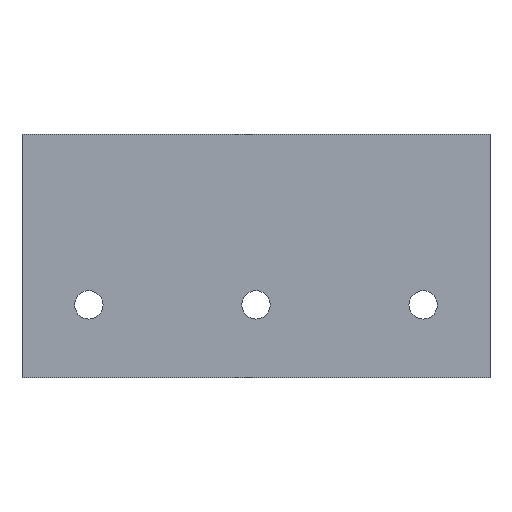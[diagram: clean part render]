
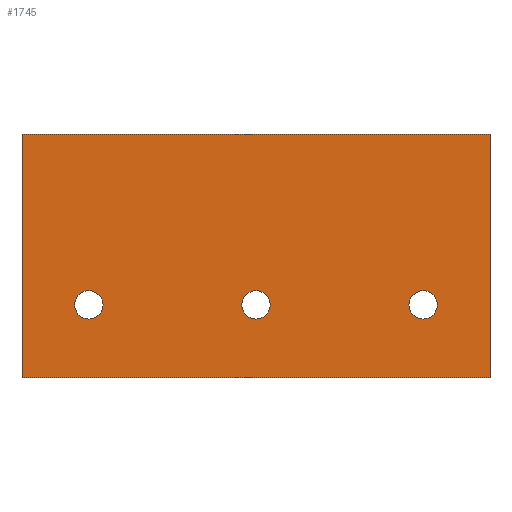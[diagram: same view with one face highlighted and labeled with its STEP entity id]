
A CAD part, top view. The second image highlights one B-rep face of the part: STEP entity #1745.
In plain terms, the highlighted planar face has unit normal (0, 0, 1).
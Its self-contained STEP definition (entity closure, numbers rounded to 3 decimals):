
#44 = PLANE('',#45);
#45 = AXIS2_PLACEMENT_3D('',#46,#47,#48);
#46 = CARTESIAN_POINT('',(28.,-42.1,-122.54));
#47 = DIRECTION('',(0.,-1.,0.));
#48 = DIRECTION('',(-0.,0.,-1.));
#72 = PLANE('',#73);
#73 = AXIS2_PLACEMENT_3D('',#74,#75,#76);
#74 = CARTESIAN_POINT('',(-28.,-56.142,-125.428));
#75 = DIRECTION('',(-1.,0.,0.));
#76 = DIRECTION('',(0.,0.,1.));
#100 = PLANE('',#101);
#101 = AXIS2_PLACEMENT_3D('',#102,#103,#104);
#102 = CARTESIAN_POINT('',(28.,-68.646,-128.54));
#103 = DIRECTION('',(0.,0.92,0.392));
#104 = DIRECTION('',(0.,-0.392,0.92)
  );
#126 = PLANE('',#127);
#127 = AXIS2_PLACEMENT_3D('',#128,#129,#130);
#128 = CARTESIAN_POINT('',(28.,-56.142,-125.428));
#129 = DIRECTION('',(-1.,0.,0.));
#130 = DIRECTION('',(0.,0.,1.));
#651 = EDGE_CURVE('',#652,#654,#656,.T.);
#652 = VERTEX_POINT('',#653);
#653 = CARTESIAN_POINT('',(28.,-42.1,-122.54));
#654 = VERTEX_POINT('',#655);
#655 = CARTESIAN_POINT('',(-28.,-42.1,-122.54));
#656 = SURFACE_CURVE('',#657,(#661,#668),.PCURVE_S1.);
#657 = LINE('',#658,#659);
#658 = CARTESIAN_POINT('',(28.,-42.1,-122.54));
#659 = VECTOR('',#660,1.);
#660 = DIRECTION('',(-1.,0.,0.));
#661 = PCURVE('',#44,#662);
#662 = DEFINITIONAL_REPRESENTATION('',(#663),#667);
#663 = LINE('',#664,#665);
#664 = CARTESIAN_POINT('',(0.,0.));
#665 = VECTOR('',#666,1.);
#666 = DIRECTION('',(0.,-1.));
#667 = ( GEOMETRIC_REPRESENTATION_CONTEXT(2) 
PARAMETRIC_REPRESENTATION_CONTEXT() REPRESENTATION_CONTEXT('2D SPACE',''
  ) );
#668 = PCURVE('',#669,#674);
#669 = PLANE('',#670);
#670 = AXIS2_PLACEMENT_3D('',#671,#672,#673);
#671 = CARTESIAN_POINT('',(28.,-71.2,-122.54));
#672 = DIRECTION('',(-0.,0.,-1.));
#673 = DIRECTION('',(0.,1.,0.));
#674 = DEFINITIONAL_REPRESENTATION('',(#675),#679);
#675 = LINE('',#676,#677);
#676 = CARTESIAN_POINT('',(29.1,0.));
#677 = VECTOR('',#678,1.);
#678 = DIRECTION('',(0.,-1.));
#679 = ( GEOMETRIC_REPRESENTATION_CONTEXT(2) 
PARAMETRIC_REPRESENTATION_CONTEXT() REPRESENTATION_CONTEXT('2D SPACE',''
  ) );
#729 = VERTEX_POINT('',#730);
#730 = CARTESIAN_POINT('',(28.,-71.2,-122.54));
#751 = EDGE_CURVE('',#729,#652,#752,.T.);
#752 = SURFACE_CURVE('',#753,(#757,#764),.PCURVE_S1.);
#753 = LINE('',#754,#755);
#754 = CARTESIAN_POINT('',(28.,-71.2,-122.54));
#755 = VECTOR('',#756,1.);
#756 = DIRECTION('',(0.,1.,0.));
#757 = PCURVE('',#126,#758);
#758 = DEFINITIONAL_REPRESENTATION('',(#759),#763);
#759 = LINE('',#760,#761);
#760 = CARTESIAN_POINT('',(2.888,-15.058));
#761 = VECTOR('',#762,1.);
#762 = DIRECTION('',(0.,1.));
#763 = ( GEOMETRIC_REPRESENTATION_CONTEXT(2) 
PARAMETRIC_REPRESENTATION_CONTEXT() REPRESENTATION_CONTEXT('2D SPACE',''
  ) );
#764 = PCURVE('',#669,#765);
#765 = DEFINITIONAL_REPRESENTATION('',(#766),#770);
#766 = LINE('',#767,#768);
#767 = CARTESIAN_POINT('',(0.,0.));
#768 = VECTOR('',#769,1.);
#769 = DIRECTION('',(1.,0.));
#770 = ( GEOMETRIC_REPRESENTATION_CONTEXT(2) 
PARAMETRIC_REPRESENTATION_CONTEXT() REPRESENTATION_CONTEXT('2D SPACE',''
  ) );
#778 = VERTEX_POINT('',#779);
#779 = CARTESIAN_POINT('',(-28.,-71.2,-122.54));
#800 = EDGE_CURVE('',#778,#654,#801,.T.);
#801 = SURFACE_CURVE('',#802,(#806,#813),.PCURVE_S1.);
#802 = LINE('',#803,#804);
#803 = CARTESIAN_POINT('',(-28.,-71.2,-122.54));
#804 = VECTOR('',#805,1.);
#805 = DIRECTION('',(0.,1.,0.));
#806 = PCURVE('',#72,#807);
#807 = DEFINITIONAL_REPRESENTATION('',(#808),#812);
#808 = LINE('',#809,#810);
#809 = CARTESIAN_POINT('',(2.888,-15.058));
#810 = VECTOR('',#811,1.);
#811 = DIRECTION('',(0.,1.));
#812 = ( GEOMETRIC_REPRESENTATION_CONTEXT(2) 
PARAMETRIC_REPRESENTATION_CONTEXT() REPRESENTATION_CONTEXT('2D SPACE',''
  ) );
#813 = PCURVE('',#669,#814);
#814 = DEFINITIONAL_REPRESENTATION('',(#815),#819);
#815 = LINE('',#816,#817);
#816 = CARTESIAN_POINT('',(0.,-56.));
#817 = VECTOR('',#818,1.);
#818 = DIRECTION('',(1.,0.));
#819 = ( GEOMETRIC_REPRESENTATION_CONTEXT(2) 
PARAMETRIC_REPRESENTATION_CONTEXT() REPRESENTATION_CONTEXT('2D SPACE',''
  ) );
#827 = EDGE_CURVE('',#729,#778,#828,.T.);
#828 = SURFACE_CURVE('',#829,(#833,#840),.PCURVE_S1.);
#829 = LINE('',#830,#831);
#830 = CARTESIAN_POINT('',(28.,-71.2,-122.54));
#831 = VECTOR('',#832,1.);
#832 = DIRECTION('',(-1.,0.,0.));
#833 = PCURVE('',#100,#834);
#834 = DEFINITIONAL_REPRESENTATION('',(#835),#839);
#835 = LINE('',#836,#837);
#836 = CARTESIAN_POINT('',(6.521,0.));
#837 = VECTOR('',#838,1.);
#838 = DIRECTION('',(0.,-1.));
#839 = ( GEOMETRIC_REPRESENTATION_CONTEXT(2) 
PARAMETRIC_REPRESENTATION_CONTEXT() REPRESENTATION_CONTEXT('2D SPACE',''
  ) );
#840 = PCURVE('',#669,#841);
#841 = DEFINITIONAL_REPRESENTATION('',(#842),#846);
#842 = LINE('',#843,#844);
#843 = CARTESIAN_POINT('',(0.,0.));
#844 = VECTOR('',#845,1.);
#845 = DIRECTION('',(0.,-1.));
#846 = ( GEOMETRIC_REPRESENTATION_CONTEXT(2) 
PARAMETRIC_REPRESENTATION_CONTEXT() REPRESENTATION_CONTEXT('2D SPACE',''
  ) );
#1745 = ADVANCED_FACE('',(#1746,#1752,#1783,#1814),#669,.F.);
#1746 = FACE_BOUND('',#1747,.F.);
#1747 = EDGE_LOOP('',(#1748,#1749,#1750,#1751));
#1748 = ORIENTED_EDGE('',*,*,#827,.T.);
#1749 = ORIENTED_EDGE('',*,*,#800,.T.);
#1750 = ORIENTED_EDGE('',*,*,#651,.F.);
#1751 = ORIENTED_EDGE('',*,*,#751,.F.);
#1752 = FACE_BOUND('',#1753,.F.);
#1753 = EDGE_LOOP('',(#1754));
#1754 = ORIENTED_EDGE('',*,*,#1755,.F.);
#1755 = EDGE_CURVE('',#1756,#1756,#1758,.T.);
#1756 = VERTEX_POINT('',#1757);
#1757 = CARTESIAN_POINT('',(-20.,-64.2,-122.54));
#1758 = SURFACE_CURVE('',#1759,(#1764,#1771),.PCURVE_S1.);
#1759 = CIRCLE('',#1760,1.7);
#1760 = AXIS2_PLACEMENT_3D('',#1761,#1762,#1763);
#1761 = CARTESIAN_POINT('',(-20.,-62.5,-122.54));
#1762 = DIRECTION('',(-0.,0.,-1.));
#1763 = DIRECTION('',(0.,-1.,0.));
#1764 = PCURVE('',#669,#1765);
#1765 = DEFINITIONAL_REPRESENTATION('',(#1766),#1770);
#1766 = CIRCLE('',#1767,1.7);
#1767 = AXIS2_PLACEMENT_2D('',#1768,#1769);
#1768 = CARTESIAN_POINT('',(8.7,-48.));
#1769 = DIRECTION('',(-1.,0.));
#1770 = ( GEOMETRIC_REPRESENTATION_CONTEXT(2) 
PARAMETRIC_REPRESENTATION_CONTEXT() REPRESENTATION_CONTEXT('2D SPACE',''
  ) );
#1771 = PCURVE('',#1772,#1777);
#1772 = CYLINDRICAL_SURFACE('',#1773,1.7);
#1773 = AXIS2_PLACEMENT_3D('',#1774,#1775,#1776);
#1774 = CARTESIAN_POINT('',(-20.,-62.5,-129.54));
#1775 = DIRECTION('',(0.,-0.,-1.));
#1776 = DIRECTION('',(0.,-1.,0.));
#1777 = DEFINITIONAL_REPRESENTATION('',(#1778),#1782);
#1778 = LINE('',#1779,#1780);
#1779 = CARTESIAN_POINT('',(-6.283,-7.));
#1780 = VECTOR('',#1781,1.);
#1781 = DIRECTION('',(1.,-0.));
#1782 = ( GEOMETRIC_REPRESENTATION_CONTEXT(2) 
PARAMETRIC_REPRESENTATION_CONTEXT() REPRESENTATION_CONTEXT('2D SPACE',''
  ) );
#1783 = FACE_BOUND('',#1784,.F.);
#1784 = EDGE_LOOP('',(#1785));
#1785 = ORIENTED_EDGE('',*,*,#1786,.F.);
#1786 = EDGE_CURVE('',#1787,#1787,#1789,.T.);
#1787 = VERTEX_POINT('',#1788);
#1788 = CARTESIAN_POINT('',(0.,-64.2,-122.54));
#1789 = SURFACE_CURVE('',#1790,(#1795,#1802),.PCURVE_S1.);
#1790 = CIRCLE('',#1791,1.7);
#1791 = AXIS2_PLACEMENT_3D('',#1792,#1793,#1794);
#1792 = CARTESIAN_POINT('',(0.,-62.5,-122.54));
#1793 = DIRECTION('',(-0.,0.,-1.));
#1794 = DIRECTION('',(0.,-1.,0.));
#1795 = PCURVE('',#669,#1796);
#1796 = DEFINITIONAL_REPRESENTATION('',(#1797),#1801);
#1797 = CIRCLE('',#1798,1.7);
#1798 = AXIS2_PLACEMENT_2D('',#1799,#1800);
#1799 = CARTESIAN_POINT('',(8.7,-28.));
#1800 = DIRECTION('',(-1.,0.));
#1801 = ( GEOMETRIC_REPRESENTATION_CONTEXT(2) 
PARAMETRIC_REPRESENTATION_CONTEXT() REPRESENTATION_CONTEXT('2D SPACE',''
  ) );
#1802 = PCURVE('',#1803,#1808);
#1803 = CYLINDRICAL_SURFACE('',#1804,1.7);
#1804 = AXIS2_PLACEMENT_3D('',#1805,#1806,#1807);
#1805 = CARTESIAN_POINT('',(0.,-62.5,-129.54));
#1806 = DIRECTION('',(0.,-0.,-1.));
#1807 = DIRECTION('',(0.,-1.,0.));
#1808 = DEFINITIONAL_REPRESENTATION('',(#1809),#1813);
#1809 = LINE('',#1810,#1811);
#1810 = CARTESIAN_POINT('',(-6.283,-7.));
#1811 = VECTOR('',#1812,1.);
#1812 = DIRECTION('',(1.,-0.));
#1813 = ( GEOMETRIC_REPRESENTATION_CONTEXT(2) 
PARAMETRIC_REPRESENTATION_CONTEXT() REPRESENTATION_CONTEXT('2D SPACE',''
  ) );
#1814 = FACE_BOUND('',#1815,.F.);
#1815 = EDGE_LOOP('',(#1816));
#1816 = ORIENTED_EDGE('',*,*,#1817,.F.);
#1817 = EDGE_CURVE('',#1818,#1818,#1820,.T.);
#1818 = VERTEX_POINT('',#1819);
#1819 = CARTESIAN_POINT('',(20.,-64.2,-122.54));
#1820 = SURFACE_CURVE('',#1821,(#1826,#1833),.PCURVE_S1.);
#1821 = CIRCLE('',#1822,1.7);
#1822 = AXIS2_PLACEMENT_3D('',#1823,#1824,#1825);
#1823 = CARTESIAN_POINT('',(20.,-62.5,-122.54));
#1824 = DIRECTION('',(-0.,0.,-1.));
#1825 = DIRECTION('',(0.,-1.,0.));
#1826 = PCURVE('',#669,#1827);
#1827 = DEFINITIONAL_REPRESENTATION('',(#1828),#1832);
#1828 = CIRCLE('',#1829,1.7);
#1829 = AXIS2_PLACEMENT_2D('',#1830,#1831);
#1830 = CARTESIAN_POINT('',(8.7,-8.));
#1831 = DIRECTION('',(-1.,0.));
#1832 = ( GEOMETRIC_REPRESENTATION_CONTEXT(2) 
PARAMETRIC_REPRESENTATION_CONTEXT() REPRESENTATION_CONTEXT('2D SPACE',''
  ) );
#1833 = PCURVE('',#1834,#1839);
#1834 = CYLINDRICAL_SURFACE('',#1835,1.7);
#1835 = AXIS2_PLACEMENT_3D('',#1836,#1837,#1838);
#1836 = CARTESIAN_POINT('',(20.,-62.5,-129.54));
#1837 = DIRECTION('',(0.,-0.,-1.));
#1838 = DIRECTION('',(0.,-1.,0.));
#1839 = DEFINITIONAL_REPRESENTATION('',(#1840),#1844);
#1840 = LINE('',#1841,#1842);
#1841 = CARTESIAN_POINT('',(-6.283,-7.));
#1842 = VECTOR('',#1843,1.);
#1843 = DIRECTION('',(1.,-0.));
#1844 = ( GEOMETRIC_REPRESENTATION_CONTEXT(2) 
PARAMETRIC_REPRESENTATION_CONTEXT() REPRESENTATION_CONTEXT('2D SPACE',''
  ) );
